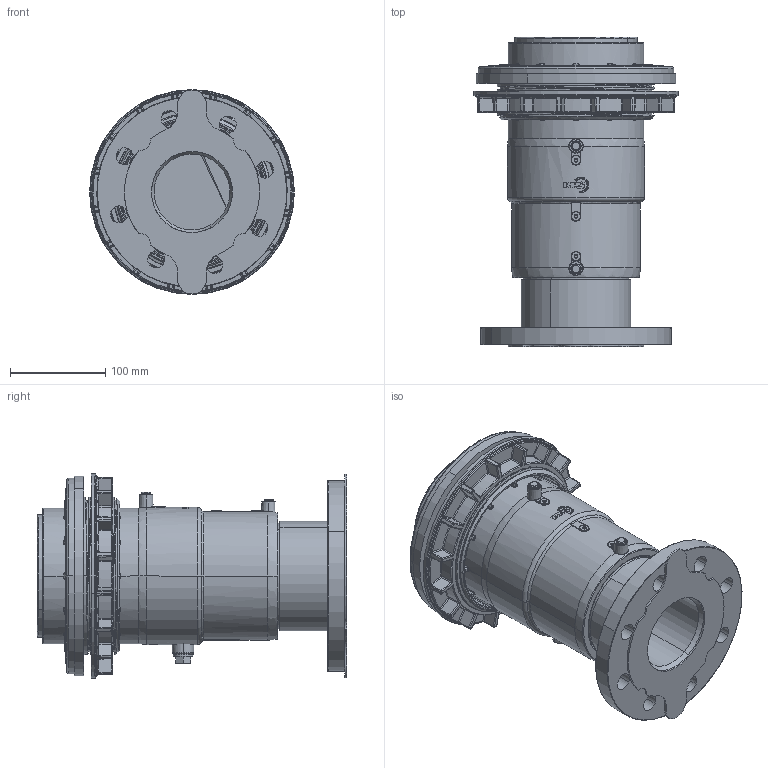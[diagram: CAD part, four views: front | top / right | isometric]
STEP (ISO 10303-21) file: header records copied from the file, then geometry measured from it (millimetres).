
FILE_DESCRIPTION (( 'STEP AP214' ), '1' );
FILE_NAME ('KP_TM125-110SC20.STEP', '2021-02-12T10:04:58', ( '' ), ( '' ), 'SwSTEP 2.0', 'SolidWorks 2019', '' );
FILE_SCHEMA (( 'AUTOMOTIVE_DESIGN' ));
Length unit declared in the file: millimetre
Products named in the file (1): KP_TM125-110SC20
Bounding box: 215 x 324.62 x 215 mm (x, y, z)
Volume: 2486615.8 mm3; surface area: 641354.4 mm2
Topology: 1 solids, 9 shells, 1962 faces, 4784 edges, 2734 vertices
Faces by surface type: bspline 528, plane 465, cylinder 459, torus 251, cone 141, sphere 118
Entity records: 82961 total; most frequent: CARTESIAN_POINT 38078, ORIENTED_EDGE 9252, DIRECTION 7689, EDGE_CURVE 4626, AXIS2_PLACEMENT_3D 3285, VERTEX_POINT 2730, EDGE_LOOP 2052, FACE_OUTER_BOUND 1962
